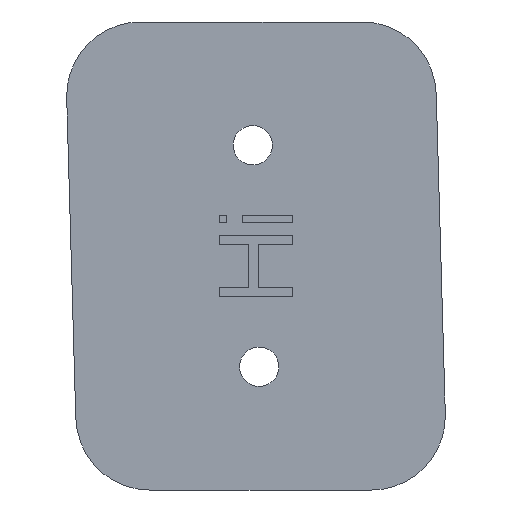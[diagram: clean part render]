
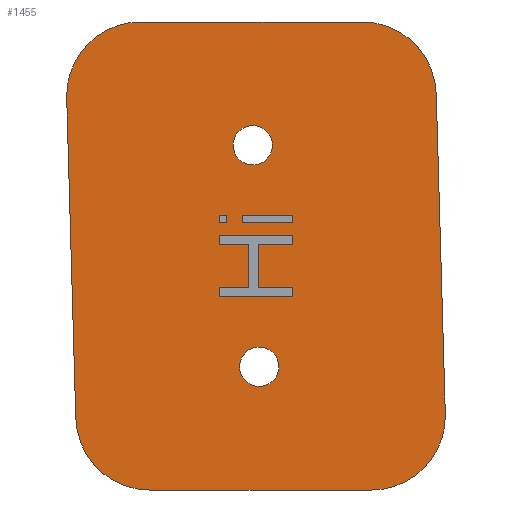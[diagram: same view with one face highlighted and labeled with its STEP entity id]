
A CAD part, front view. The second image highlights one B-rep face of the part: STEP entity #1455.
In plain terms, the highlighted planar face has unit normal (0, -1, 0).
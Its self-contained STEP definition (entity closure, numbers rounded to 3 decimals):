
#2=DIRECTION('',(0.028,0.,-1.));
#3=VECTOR('',#2,26.01);
#4=CARTESIAN_POINT('',(-15.37,-22.25,12.83));
#5=LINE('',#4,#3);
#6=CARTESIAN_POINT('',(-9.372,-22.25,13.));
#7=DIRECTION('',(0.,-1.,0.));
#8=DIRECTION('',(0.,0.,1.));
#9=AXIS2_PLACEMENT_3D('',#6,#7,#8);
#11=DIRECTION('',(-1.,0.,0.));
#12=VECTOR('',#11,18.007);
#13=CARTESIAN_POINT('',(8.635,-22.25,19.));
#14=LINE('',#13,#12);
#15=CARTESIAN_POINT('',(8.635,-22.25,13.));
#16=DIRECTION('',(0.,-1.,0.));
#17=DIRECTION('',(1.,0.,0.028));
#18=AXIS2_PLACEMENT_3D('',#15,#16,#17);
#20=DIRECTION('',(-0.028,0.,1.));
#21=VECTOR('',#20,26.01);
#22=CARTESIAN_POINT('',(15.37,-22.25,-12.83));
#23=LINE('',#22,#21);
#24=CARTESIAN_POINT('',(9.372,-22.25,-13.));
#25=DIRECTION('',(0.,-1.,0.));
#26=DIRECTION('',(0.,0.,-1.));
#27=AXIS2_PLACEMENT_3D('',#24,#25,#26);
#29=DIRECTION('',(1.,0.,0.));
#30=VECTOR('',#29,18.007);
#31=CARTESIAN_POINT('',(-8.635,-22.25,-19.));
#32=LINE('',#31,#30);
#33=CARTESIAN_POINT('',(-8.635,-22.25,-13.));
#34=DIRECTION('',(0.,-1.,0.));
#35=DIRECTION('',(-1.,0.,-0.028));
#36=AXIS2_PLACEMENT_3D('',#33,#34,#35);
#38=CARTESIAN_POINT('',(0.255,-22.25,-8.996));
#39=DIRECTION('',(0.,-1.,0.));
#40=DIRECTION('',(1.,0.,0.));
#41=AXIS2_PLACEMENT_3D('',#38,#39,#40);
#43=CARTESIAN_POINT('',(0.255,-22.25,-8.996));
#44=DIRECTION('',(0.,-1.,0.));
#45=DIRECTION('',(-1.,0.,0.));
#46=AXIS2_PLACEMENT_3D('',#43,#44,#45);
#48=CARTESIAN_POINT('',(-0.255,-22.25,8.996));
#49=DIRECTION('',(0.,-1.,0.));
#50=DIRECTION('',(1.,0.,0.));
#51=AXIS2_PLACEMENT_3D('',#48,#49,#50);
#53=CARTESIAN_POINT('',(-0.255,-22.25,8.996));
#54=DIRECTION('',(0.,-1.,0.));
#55=DIRECTION('',(-1.,0.,0.));
#56=AXIS2_PLACEMENT_3D('',#53,#54,#55);
#58=DIRECTION('',(-1.,0.,0.));
#59=VECTOR('',#58,2.426);
#60=CARTESIAN_POINT('',(-0.574,-22.25,-2.563));
#61=LINE('',#60,#59);
#62=DIRECTION('',(0.,0.,-1.));
#63=VECTOR('',#62,0.75);
#64=CARTESIAN_POINT('',(-3.,-22.25,-2.563));
#65=LINE('',#64,#63);
#66=DIRECTION('',(1.,0.,0.));
#67=VECTOR('',#66,6.);
#68=CARTESIAN_POINT('',(-3.,-22.25,-3.313));
#69=LINE('',#68,#67);
#70=DIRECTION('',(0.,0.,1.));
#71=VECTOR('',#70,0.75);
#72=CARTESIAN_POINT('',(3.,-22.25,-3.313));
#73=LINE('',#72,#71);
#74=DIRECTION('',(-1.,0.,0.));
#75=VECTOR('',#74,2.809);
#76=CARTESIAN_POINT('',(3.,-22.25,-2.563));
#77=LINE('',#76,#75);
#78=DIRECTION('',(0.,0.,1.));
#79=VECTOR('',#78,3.5);
#80=CARTESIAN_POINT('',(0.191,-22.25,-2.563));
#81=LINE('',#80,#79);
#82=DIRECTION('',(1.,0.,0.));
#83=VECTOR('',#82,2.809);
#84=CARTESIAN_POINT('',(0.191,-22.25,0.937));
#85=LINE('',#84,#83);
#86=DIRECTION('',(0.,0.,1.));
#87=VECTOR('',#86,0.75);
#88=CARTESIAN_POINT('',(3.,-22.25,0.937));
#89=LINE('',#88,#87);
#90=DIRECTION('',(-1.,0.,0.));
#91=VECTOR('',#90,6.);
#92=CARTESIAN_POINT('',(3.,-22.25,1.687));
#93=LINE('',#92,#91);
#94=DIRECTION('',(0.,0.,-1.));
#95=VECTOR('',#94,0.75);
#96=CARTESIAN_POINT('',(-3.,-22.25,1.687));
#97=LINE('',#96,#95);
#98=DIRECTION('',(1.,0.,0.));
#99=VECTOR('',#98,2.426);
#100=CARTESIAN_POINT('',(-3.,-22.25,0.937));
#101=LINE('',#100,#99);
#102=DIRECTION('',(0.,0.,-1.));
#103=VECTOR('',#102,3.5);
#104=CARTESIAN_POINT('',(-0.574,-22.25,0.937));
#105=LINE('',#104,#103);
#106=DIRECTION('',(-1.,0.,0.));
#107=VECTOR('',#106,4.085);
#108=CARTESIAN_POINT('',(3.,-22.25,3.312));
#109=LINE('',#108,#107);
#110=DIRECTION('',(0.,0.,-1.));
#111=VECTOR('',#110,0.625);
#112=CARTESIAN_POINT('',(-1.085,-22.25,3.312));
#113=LINE('',#112,#111);
#114=DIRECTION('',(1.,0.,0.));
#115=VECTOR('',#114,4.085);
#116=CARTESIAN_POINT('',(-1.085,-22.25,2.688));
#117=LINE('',#116,#115);
#118=DIRECTION('',(0.,0.,1.));
#119=VECTOR('',#118,0.625);
#120=CARTESIAN_POINT('',(3.,-22.25,2.688));
#121=LINE('',#120,#119);
#122=DIRECTION('',(-1.,0.,0.));
#123=VECTOR('',#122,0.638);
#124=CARTESIAN_POINT('',(-2.362,-22.25,3.312));
#125=LINE('',#124,#123);
#126=DIRECTION('',(0.,0.,-1.));
#127=VECTOR('',#126,0.625);
#128=CARTESIAN_POINT('',(-3.,-22.25,3.312));
#129=LINE('',#128,#127);
#130=DIRECTION('',(1.,0.,0.));
#131=VECTOR('',#130,0.638);
#132=CARTESIAN_POINT('',(-3.,-22.25,2.688));
#133=LINE('',#132,#131);
#134=DIRECTION('',(0.,0.,1.));
#135=VECTOR('',#134,0.625);
#136=CARTESIAN_POINT('',(-2.362,-22.25,2.688));
#137=LINE('',#136,#135);
#1224=CARTESIAN_POINT('',(-0.574,-22.25,-2.563));
#1225=CARTESIAN_POINT('',(-3.,-22.25,-2.563));
#1226=VERTEX_POINT('',#1224);
#1227=VERTEX_POINT('',#1225);
#1228=CARTESIAN_POINT('',(-3.,-22.25,-3.313));
#1229=VERTEX_POINT('',#1228);
#1230=CARTESIAN_POINT('',(3.,-22.25,-3.313));
#1231=VERTEX_POINT('',#1230);
#1232=CARTESIAN_POINT('',(3.,-22.25,-2.563));
#1233=VERTEX_POINT('',#1232);
#1250=CARTESIAN_POINT('',(3.,-22.25,3.312));
#1251=CARTESIAN_POINT('',(-1.085,-22.25,3.312));
#1252=VERTEX_POINT('',#1250);
#1253=VERTEX_POINT('',#1251);
#1254=CARTESIAN_POINT('',(-1.085,-22.25,2.688));
#1255=VERTEX_POINT('',#1254);
#1256=CARTESIAN_POINT('',(3.,-22.25,2.688));
#1257=VERTEX_POINT('',#1256);
#1258=CARTESIAN_POINT('',(1.855,-22.25,-8.996));
#1259=CARTESIAN_POINT('',(-1.345,-22.25,-8.996));
#1260=VERTEX_POINT('',#1258);
#1261=VERTEX_POINT('',#1259);
#1270=CARTESIAN_POINT('',(1.345,-22.25,8.996));
#1271=CARTESIAN_POINT('',(-1.855,-22.25,8.996));
#1272=VERTEX_POINT('',#1270);
#1273=VERTEX_POINT('',#1271);
#1304=CARTESIAN_POINT('',(0.191,-22.25,-2.563));
#1305=VERTEX_POINT('',#1304);
#1306=CARTESIAN_POINT('',(0.191,-22.25,0.937));
#1307=VERTEX_POINT('',#1306);
#1308=CARTESIAN_POINT('',(3.,-22.25,0.937));
#1309=VERTEX_POINT('',#1308);
#1310=CARTESIAN_POINT('',(3.,-22.25,1.687));
#1311=VERTEX_POINT('',#1310);
#1312=CARTESIAN_POINT('',(-3.,-22.25,1.687));
#1313=VERTEX_POINT('',#1312);
#1314=CARTESIAN_POINT('',(-3.,-22.25,0.937));
#1315=VERTEX_POINT('',#1314);
#1316=CARTESIAN_POINT('',(-0.574,-22.25,0.937));
#1317=VERTEX_POINT('',#1316);
#1318=CARTESIAN_POINT('',(-2.362,-22.25,3.312));
#1319=CARTESIAN_POINT('',(-3.,-22.25,3.312));
#1320=VERTEX_POINT('',#1318);
#1321=VERTEX_POINT('',#1319);
#1322=CARTESIAN_POINT('',(-3.,-22.25,2.688));
#1323=VERTEX_POINT('',#1322);
#1324=CARTESIAN_POINT('',(-2.362,-22.25,2.688));
#1325=VERTEX_POINT('',#1324);
#1326=CARTESIAN_POINT('',(-15.37,-22.25,12.83));
#1327=CARTESIAN_POINT('',(-14.633,-22.25,-13.17));
#1328=VERTEX_POINT('',#1326);
#1329=VERTEX_POINT('',#1327);
#1330=CARTESIAN_POINT('',(-8.635,-22.25,-19.));
#1331=VERTEX_POINT('',#1330);
#1332=CARTESIAN_POINT('',(9.372,-22.25,-19.));
#1333=VERTEX_POINT('',#1332);
#1334=CARTESIAN_POINT('',(15.37,-22.25,-12.83));
#1335=VERTEX_POINT('',#1334);
#1336=CARTESIAN_POINT('',(14.633,-22.25,13.17));
#1337=VERTEX_POINT('',#1336);
#1338=CARTESIAN_POINT('',(8.635,-22.25,19.));
#1339=VERTEX_POINT('',#1338);
#1340=CARTESIAN_POINT('',(-9.372,-22.25,19.));
#1341=VERTEX_POINT('',#1340);
#1374=CARTESIAN_POINT('',(0.,-22.25,0.));
#1375=DIRECTION('',(0.,1.,0.));
#1376=DIRECTION('',(0.,0.,1.));
#1377=AXIS2_PLACEMENT_3D('',#1374,#1375,#1376);
#1378=PLANE('',#1377);
#1380=ORIENTED_EDGE('',*,*,#1379,.F.);
#1382=ORIENTED_EDGE('',*,*,#1381,.F.);
#1384=ORIENTED_EDGE('',*,*,#1383,.F.);
#1386=ORIENTED_EDGE('',*,*,#1385,.F.);
#1388=ORIENTED_EDGE('',*,*,#1387,.F.);
#1390=ORIENTED_EDGE('',*,*,#1389,.F.);
#1392=ORIENTED_EDGE('',*,*,#1391,.F.);
#1394=ORIENTED_EDGE('',*,*,#1393,.F.);
#1395=EDGE_LOOP('',(#1380,#1382,#1384,#1386,#1388,#1390,#1392,#1394));
#1396=FACE_OUTER_BOUND('',#1395,.F.);
#1398=ORIENTED_EDGE('',*,*,#1397,.T.);
#1400=ORIENTED_EDGE('',*,*,#1399,.T.);
#1401=EDGE_LOOP('',(#1398,#1400));
#1402=FACE_BOUND('',#1401,.F.);
#1404=ORIENTED_EDGE('',*,*,#1403,.T.);
#1406=ORIENTED_EDGE('',*,*,#1405,.T.);
#1407=EDGE_LOOP('',(#1404,#1406));
#1408=FACE_BOUND('',#1407,.F.);
#1410=ORIENTED_EDGE('',*,*,#1409,.T.);
#1412=ORIENTED_EDGE('',*,*,#1411,.T.);
#1414=ORIENTED_EDGE('',*,*,#1413,.T.);
#1416=ORIENTED_EDGE('',*,*,#1415,.T.);
#1418=ORIENTED_EDGE('',*,*,#1417,.T.);
#1420=ORIENTED_EDGE('',*,*,#1419,.T.);
#1422=ORIENTED_EDGE('',*,*,#1421,.T.);
#1424=ORIENTED_EDGE('',*,*,#1423,.T.);
#1426=ORIENTED_EDGE('',*,*,#1425,.T.);
#1428=ORIENTED_EDGE('',*,*,#1427,.T.);
#1430=ORIENTED_EDGE('',*,*,#1429,.T.);
#1432=ORIENTED_EDGE('',*,*,#1431,.T.);
#1433=EDGE_LOOP('',(#1410,#1412,#1414,#1416,#1418,#1420,#1422,#1424,#1426,#1428,
#1430,#1432));
#1434=FACE_BOUND('',#1433,.F.);
#1436=ORIENTED_EDGE('',*,*,#1435,.T.);
#1438=ORIENTED_EDGE('',*,*,#1437,.T.);
#1440=ORIENTED_EDGE('',*,*,#1439,.T.);
#1442=ORIENTED_EDGE('',*,*,#1441,.T.);
#1443=EDGE_LOOP('',(#1436,#1438,#1440,#1442));
#1444=FACE_BOUND('',#1443,.F.);
#1446=ORIENTED_EDGE('',*,*,#1445,.T.);
#1448=ORIENTED_EDGE('',*,*,#1447,.T.);
#1450=ORIENTED_EDGE('',*,*,#1449,.T.);
#1452=ORIENTED_EDGE('',*,*,#1451,.T.);
#1453=EDGE_LOOP('',(#1446,#1448,#1450,#1452));
#1454=FACE_BOUND('',#1453,.F.);
#1455=ADVANCED_FACE('',(#1396,#1402,#1408,#1434,#1444,#1454),#1378,.F.);
#10=CIRCLE('',#9,6.);
#19=CIRCLE('',#18,6.);
#28=CIRCLE('',#27,6.);
#37=CIRCLE('',#36,6.);
#42=CIRCLE('',#41,1.6);
#47=CIRCLE('',#46,1.6);
#52=CIRCLE('',#51,1.6);
#57=CIRCLE('',#56,1.6);
#1379=EDGE_CURVE('',#1328,#1329,#5,.T.);
#1381=EDGE_CURVE('',#1341,#1328,#10,.T.);
#1383=EDGE_CURVE('',#1339,#1341,#14,.T.);
#1385=EDGE_CURVE('',#1337,#1339,#19,.T.);
#1387=EDGE_CURVE('',#1335,#1337,#23,.T.);
#1389=EDGE_CURVE('',#1333,#1335,#28,.T.);
#1391=EDGE_CURVE('',#1331,#1333,#32,.T.);
#1393=EDGE_CURVE('',#1329,#1331,#37,.T.);
#1397=EDGE_CURVE('',#1260,#1261,#42,.T.);
#1399=EDGE_CURVE('',#1261,#1260,#47,.T.);
#1403=EDGE_CURVE('',#1272,#1273,#52,.T.);
#1405=EDGE_CURVE('',#1273,#1272,#57,.T.);
#1409=EDGE_CURVE('',#1226,#1227,#61,.T.);
#1411=EDGE_CURVE('',#1227,#1229,#65,.T.);
#1413=EDGE_CURVE('',#1229,#1231,#69,.T.);
#1415=EDGE_CURVE('',#1231,#1233,#73,.T.);
#1417=EDGE_CURVE('',#1233,#1305,#77,.T.);
#1419=EDGE_CURVE('',#1305,#1307,#81,.T.);
#1421=EDGE_CURVE('',#1307,#1309,#85,.T.);
#1423=EDGE_CURVE('',#1309,#1311,#89,.T.);
#1425=EDGE_CURVE('',#1311,#1313,#93,.T.);
#1427=EDGE_CURVE('',#1313,#1315,#97,.T.);
#1429=EDGE_CURVE('',#1315,#1317,#101,.T.);
#1431=EDGE_CURVE('',#1317,#1226,#105,.T.);
#1435=EDGE_CURVE('',#1252,#1253,#109,.T.);
#1437=EDGE_CURVE('',#1253,#1255,#113,.T.);
#1439=EDGE_CURVE('',#1255,#1257,#117,.T.);
#1441=EDGE_CURVE('',#1257,#1252,#121,.T.);
#1445=EDGE_CURVE('',#1320,#1321,#125,.T.);
#1447=EDGE_CURVE('',#1321,#1323,#129,.T.);
#1449=EDGE_CURVE('',#1323,#1325,#133,.T.);
#1451=EDGE_CURVE('',#1325,#1320,#137,.T.);
